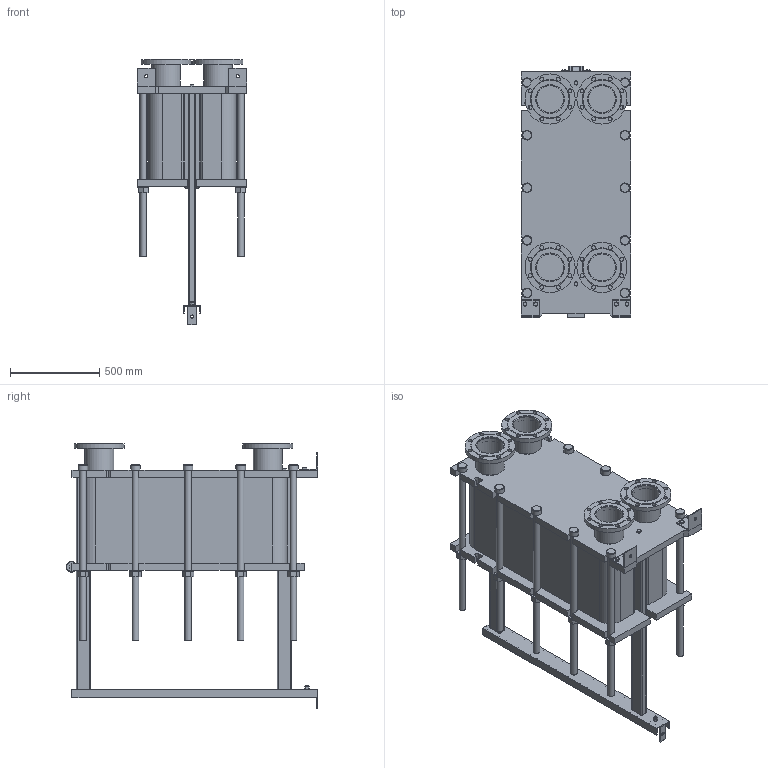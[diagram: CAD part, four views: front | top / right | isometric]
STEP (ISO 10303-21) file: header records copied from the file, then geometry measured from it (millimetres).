
FILE_DESCRIPTION(/* description */ (''),/* implementation_level */ '2;1');
FILE_NAME(/* name */ 'C:\Users\zhuro\Desktop\ENCO\TO\ЭН-041\ЭН-0,5-041-139-1.stp',/* time_stamp */ '2022-06-06T11:00:46+03:00',/* author */ ('zhuro'),/* organization */ (''),/* preprocessor_version */ 'ST-DEVELOPER v18.1',/* originating_system */ 'Autodesk Inventor 2022',/* authorisation */ '');
FILE_SCHEMA (('AUTOMOTIVE_DESIGN { 1 0 10303 214 3 1 1 }'));
Length unit declared in the file: millimetre
Products named in the file (1): ЭН-0,5-041-139-1
Bounding box: 610 x 1406.5 x 1482.5 mm (x, y, z)
Volume: 352930578.7 mm3; surface area: 9884429.1 mm2
Topology: 52 solids, 52 shells, 711 faces, 1696 edges, 1094 vertices
Faces by surface type: plane 487, cylinder 177, cone 41, torus 6
Full cylindrical faces by diameter (mm): 8 x4, 10 x2, 16 x8, 18 x3, 22 x32, 36 x24, 50 x1, 54 x10, 60 x12, 151 x4, 161 x8, 280 x4
Entity records: 22667 total; most frequent: CARTESIAN_POINT 5230, DIRECTION 3644, ORIENTED_EDGE 3392, EDGE_CURVE 1696, AXIS2_PLACEMENT_3D 1272, LINE 1100, VECTOR 1100, VERTEX_POINT 1094
